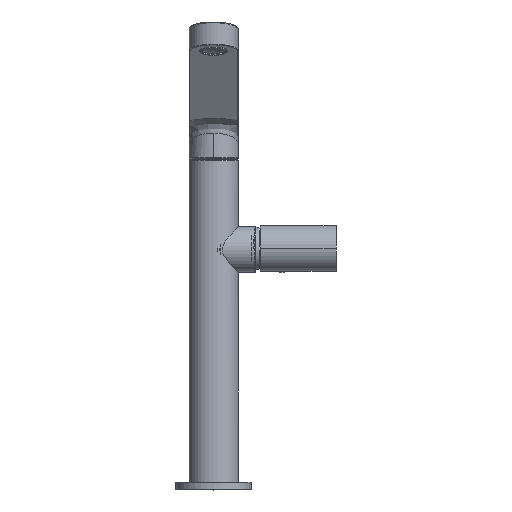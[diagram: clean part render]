
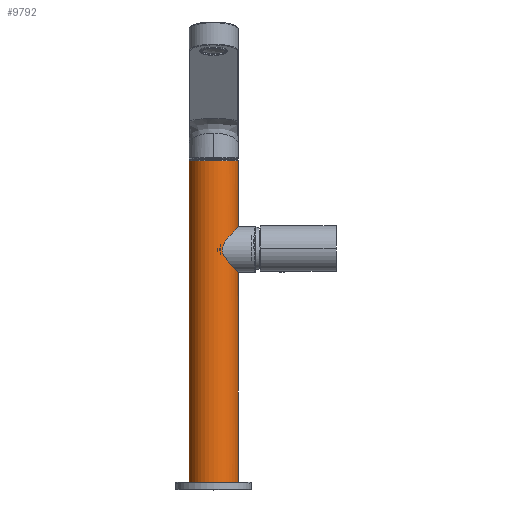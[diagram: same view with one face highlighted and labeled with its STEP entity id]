
A CAD part, top view. The second image highlights one B-rep face of the part: STEP entity #9792.
In plain terms, the highlighted cylindrical face has radius 16 mm (diameter 32 mm), a partial arc.
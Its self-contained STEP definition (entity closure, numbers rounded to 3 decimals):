
#3045=DIRECTION('',(0.,1.,0.));
#3046=VECTOR('',#3045,136.5);
#3047=CARTESIAN_POINT('',(16.,-90.,0.));
#3048=LINE('',#3047,#3046);
#3049=CARTESIAN_POINT('',(16.,76.5,0.));
#3126=CARTESIAN_POINT('',(16.,46.5,0.));
#3133=DIRECTION('',(0.,-1.,0.));
#3134=VECTOR('',#3133,209.5);
#3135=CARTESIAN_POINT('',(-16.,119.5,0.));
#3136=LINE('',#3135,#3134);
#3142=CARTESIAN_POINT('',(0.,-90.,0.));
#3143=DIRECTION('',(0.,-1.,0.));
#3144=DIRECTION('',(1.,0.,0.));
#3145=AXIS2_PLACEMENT_3D('',#3142,#3143,#3144);
#3147=CARTESIAN_POINT('',(0.,119.5,0.));
#3148=DIRECTION('',(0.,-1.,0.));
#3149=DIRECTION('',(1.,0.,0.));
#3150=AXIS2_PLACEMENT_3D('',#3147,#3148,#3149);
#3152=DIRECTION('',(0.,-1.,0.));
#3153=VECTOR('',#3152,43.);
#3154=CARTESIAN_POINT('',(16.,119.5,0.));
#3155=LINE('',#3154,#3153);
#3156=CARTESIAN_POINT('',(16.,46.5,0.));
#3157=CARTESIAN_POINT('',(16.,46.5,0.199));
#3158=CARTESIAN_POINT('',(15.993,46.508,0.596));
#3159=CARTESIAN_POINT('',(15.959,46.544,1.194));
#3160=CARTESIAN_POINT('',(15.903,46.603,1.791));
#3161=CARTESIAN_POINT('',(15.825,46.687,2.388));
#3162=CARTESIAN_POINT('',(15.723,46.796,2.986));
#3163=CARTESIAN_POINT('',(15.597,46.93,3.585));
#3164=CARTESIAN_POINT('',(15.447,47.091,4.184));
#3165=CARTESIAN_POINT('',(15.273,47.278,4.782));
#3166=CARTESIAN_POINT('',(15.073,47.493,5.381));
#3167=CARTESIAN_POINT('',(14.845,47.738,5.98));
#3168=CARTESIAN_POINT('',(14.591,48.013,6.576));
#3169=CARTESIAN_POINT('',(14.308,48.319,7.171));
#3170=CARTESIAN_POINT('',(13.996,48.659,7.763));
#3171=CARTESIAN_POINT('',(13.654,49.032,8.349));
#3172=CARTESIAN_POINT('',(13.282,49.441,8.931));
#3173=CARTESIAN_POINT('',(12.877,49.888,9.505));
#3174=CARTESIAN_POINT('',(12.443,50.372,10.067));
#3175=CARTESIAN_POINT('',(11.976,50.896,10.618));
#3176=CARTESIAN_POINT('',(11.48,51.459,11.153));
#3177=CARTESIAN_POINT('',(10.956,52.063,11.668));
#3178=CARTESIAN_POINT('',(10.407,52.705,12.16));
#3179=CARTESIAN_POINT('',(9.841,53.382,12.622));
#3180=CARTESIAN_POINT('',(9.265,54.09,13.051));
#3181=CARTESIAN_POINT('',(8.697,54.814,13.436));
#3182=CARTESIAN_POINT('',(8.153,55.538,13.772));
#3183=CARTESIAN_POINT('',(7.653,56.242,14.055));
#3184=CARTESIAN_POINT('',(7.216,56.9,14.283));
#3185=CARTESIAN_POINT('',(6.845,57.509,14.464));
#3186=CARTESIAN_POINT('',(6.537,58.064,14.605));
#3187=CARTESIAN_POINT('',(6.287,58.569,14.714));
#3188=CARTESIAN_POINT('',(6.086,59.031,14.798));
#3189=CARTESIAN_POINT('',(5.925,59.46,14.863));
#3190=CARTESIAN_POINT('',(5.799,59.863,14.912));
#3191=CARTESIAN_POINT('',(5.704,60.244,14.949));
#3192=CARTESIAN_POINT('',(5.635,60.61,14.975));
#3193=CARTESIAN_POINT('',(5.59,60.967,14.992));
#3194=CARTESIAN_POINT('',(5.567,61.318,15.));
#3195=CARTESIAN_POINT('',(5.567,61.666,15.));
#3196=CARTESIAN_POINT('',(5.588,62.016,14.993));
#3197=CARTESIAN_POINT('',(5.632,62.372,14.976));
#3198=CARTESIAN_POINT('',(5.7,62.74,14.95));
#3199=CARTESIAN_POINT('',(5.795,63.121,14.914));
#3200=CARTESIAN_POINT('',(5.919,63.521,14.865));
#3201=CARTESIAN_POINT('',(6.078,63.949,14.801));
#3202=CARTESIAN_POINT('',(6.278,64.411,14.718));
#3203=CARTESIAN_POINT('',(6.526,64.915,14.609));
#3204=CARTESIAN_POINT('',(6.832,65.468,14.47));
#3205=CARTESIAN_POINT('',(7.203,66.079,14.289));
#3206=CARTESIAN_POINT('',(7.642,66.742,14.061));
#3207=CARTESIAN_POINT('',(8.144,67.45,13.777));
#3208=CARTESIAN_POINT('',(8.69,68.178,13.44));
#3209=CARTESIAN_POINT('',(9.262,68.906,13.053));
#3210=CARTESIAN_POINT('',(9.838,69.615,12.625));
#3211=CARTESIAN_POINT('',(10.406,70.294,12.161));
#3212=CARTESIAN_POINT('',(10.955,70.936,11.669));
#3213=CARTESIAN_POINT('',(11.48,71.54,11.153));
#3214=CARTESIAN_POINT('',(11.976,72.104,10.619));
#3215=CARTESIAN_POINT('',(12.442,72.628,10.068));
#3216=CARTESIAN_POINT('',(12.877,73.112,9.505));
#3217=CARTESIAN_POINT('',(13.282,73.559,8.931));
#3218=CARTESIAN_POINT('',(13.654,73.968,8.35));
#3219=CARTESIAN_POINT('',(13.996,74.341,7.763));
#3220=CARTESIAN_POINT('',(14.308,74.681,7.171));
#3221=CARTESIAN_POINT('',(14.591,74.987,6.576));
#3222=CARTESIAN_POINT('',(14.845,75.262,5.98));
#3223=CARTESIAN_POINT('',(15.072,75.507,5.381));
#3224=CARTESIAN_POINT('',(15.273,75.722,4.782));
#3225=CARTESIAN_POINT('',(15.447,75.909,4.184));
#3226=CARTESIAN_POINT('',(15.597,76.07,3.585));
#3227=CARTESIAN_POINT('',(15.723,76.204,2.986));
#3228=CARTESIAN_POINT('',(15.825,76.313,2.388));
#3229=CARTESIAN_POINT('',(15.903,76.397,1.791));
#3230=CARTESIAN_POINT('',(15.959,76.456,1.194));
#3231=CARTESIAN_POINT('',(15.993,76.492,0.596));
#3232=CARTESIAN_POINT('',(16.,76.5,0.199));
#3233=CARTESIAN_POINT('',(16.,76.5,0.));
#5897=CARTESIAN_POINT('',(-16.,119.5,0.));
#5898=CARTESIAN_POINT('',(16.,119.5,0.));
#5899=VERTEX_POINT('',#5897);
#5900=VERTEX_POINT('',#5898);
#5947=VERTEX_POINT('',#3049);
#5948=VERTEX_POINT('',#3126);
#6520=CARTESIAN_POINT('',(-16.,-90.,0.));
#6521=CARTESIAN_POINT('',(16.,-90.,0.));
#6522=VERTEX_POINT('',#6520);
#6523=VERTEX_POINT('',#6521);
#9777=CARTESIAN_POINT('',(0.,126.,0.));
#9778=DIRECTION('',(0.,-1.,0.));
#9779=DIRECTION('',(-1.,0.,0.));
#9780=AXIS2_PLACEMENT_3D('',#9777,#9778,#9779);
#9781=CYLINDRICAL_SURFACE('',#9780,16.);
#9783=ORIENTED_EDGE('',*,*,#9782,.T.);
#9784=ORIENTED_EDGE('',*,*,#9770,.F.);
#9786=ORIENTED_EDGE('',*,*,#9785,.F.);
#9787=ORIENTED_EDGE('',*,*,#9766,.T.);
#9788=ORIENTED_EDGE('',*,*,#9738,.F.);
#9789=ORIENTED_EDGE('',*,*,#9763,.F.);
#9790=EDGE_LOOP('',(#9783,#9784,#9786,#9787,#9788,#9789));
#9791=FACE_OUTER_BOUND('',#9790,.F.);
#9792=ADVANCED_FACE('',(#9791),#9781,.T.);
#3146=CIRCLE('',#3145,16.);
#3151=CIRCLE('',#3150,16.);
#3234=B_SPLINE_CURVE_WITH_KNOTS('',3,(#3156,#3157,#3158,#3159,#3160,#3161,#3162,
#3163,#3164,#3165,#3166,#3167,#3168,#3169,#3170,#3171,#3172,#3173,#3174,#3175,
#3176,#3177,#3178,#3179,#3180,#3181,#3182,#3183,#3184,#3185,#3186,#3187,#3188,
#3189,#3190,#3191,#3192,#3193,#3194,#3195,#3196,#3197,#3198,#3199,#3200,#3201,
#3202,#3203,#3204,#3205,#3206,#3207,#3208,#3209,#3210,#3211,#3212,#3213,#3214,
#3215,#3216,#3217,#3218,#3219,#3220,#3221,#3222,#3223,#3224,#3225,#3226,#3227,
#3228,#3229,#3230,#3231,#3232,#3233),.UNSPECIFIED.,.F.,.F.,(4,1,1,1,1,1,1,1,1,1,
1,1,1,1,1,1,1,1,1,1,1,1,1,1,1,1,1,1,1,1,1,1,1,1,1,1,1,1,1,1,1,1,1,1,1,1,1,1,1,1,
1,1,1,1,1,1,1,1,1,1,1,1,1,1,1,1,1,1,1,1,1,1,1,1,1,4),(0.,0.013,
0.027,0.04,0.053,0.067,0.08,
0.093,0.107,0.12,0.133,0.147,
0.16,0.173,0.187,0.2,0.213,
0.227,0.24,0.253,0.267,0.28,
0.293,0.307,0.32,0.333,0.347,
0.36,0.373,0.387,0.4,0.413,
0.427,0.44,0.453,0.467,0.48,
0.493,0.507,0.52,0.533,0.547,
0.56,0.573,0.587,0.6,0.613,
0.627,0.64,0.653,0.667,0.68,
0.693,0.707,0.72,0.733,0.747,
0.76,0.773,0.787,0.8,0.813,
0.827,0.84,0.853,0.867,0.88,
0.893,0.907,0.92,0.933,0.947,
0.96,0.973,0.987,1.),.UNSPECIFIED.);
#9738=EDGE_CURVE('',#5948,#5947,#3234,.T.);
#9763=EDGE_CURVE('',#6523,#5948,#3048,.T.);
#9766=EDGE_CURVE('',#5900,#5947,#3155,.T.);
#9770=EDGE_CURVE('',#5899,#6522,#3136,.T.);
#9782=EDGE_CURVE('',#6523,#6522,#3146,.T.);
#9785=EDGE_CURVE('',#5900,#5899,#3151,.T.);
